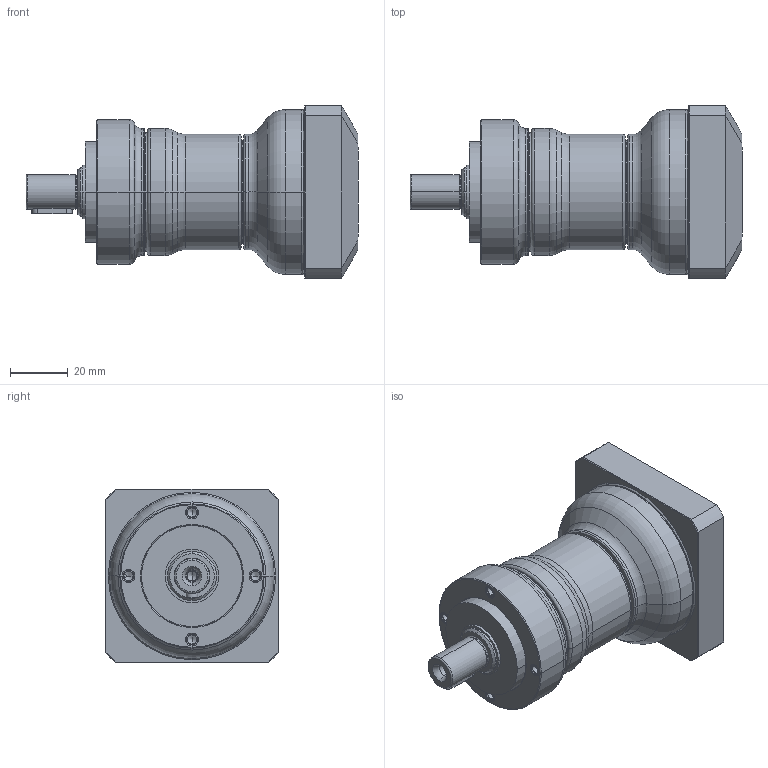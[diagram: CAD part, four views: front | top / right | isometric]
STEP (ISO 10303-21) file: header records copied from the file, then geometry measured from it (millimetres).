
FILE_DESCRIPTION((''),'2;1');
FILE_NAME('PE2-050_2ST_11-P0411200101_ASM','2016-04-27T',('d00435'),(''),'PRO/ENGINEER BY PARAMETRIC TECHNOLOGY CORPORATION, 2008410','PRO/ENGINEER BY PARAMETRIC TECHNOLOGY CORPORATION, 2008410','');
FILE_SCHEMA(('CONFIG_CONTROL_DESIGN'));
Length unit declared in the file: millimetre
Products named in the file (9): P1323100001; P0251100001; P1324100101; P0350101001; P0941101001; P0503200005; P0411200101; P1702300001; PE2-050_2ST_11-P0411200101_ASM
Assembly tree (8 placements, depth 2):
  PE2-050_2ST_11-P0411200101_ASM
    P1323100001
    P0251100001
    P1324100101
    P0350101001
    P0941101001
    P0503200005
    P0411200101
    P1702300001
Bounding box: 115 x 60 x 60 mm (x, y, z)
Volume: 129913.3 mm3; surface area: 54253.8 mm2
Topology: 8 solids, 22 shells, 528 faces, 1182 edges, 698 vertices
Faces by surface type: cylinder 168, cone 148, torus 100, plane 96, bspline 16
Entity records: 19381 total; most frequent: CARTESIAN_POINT 7304, DIRECTION 2781, ORIENTED_EDGE 2236, AXIS2_PLACEMENT_3D 1201, EDGE_CURVE 1146, VERTEX_POINT 698, CIRCLE 662, EDGE_LOOP 608
